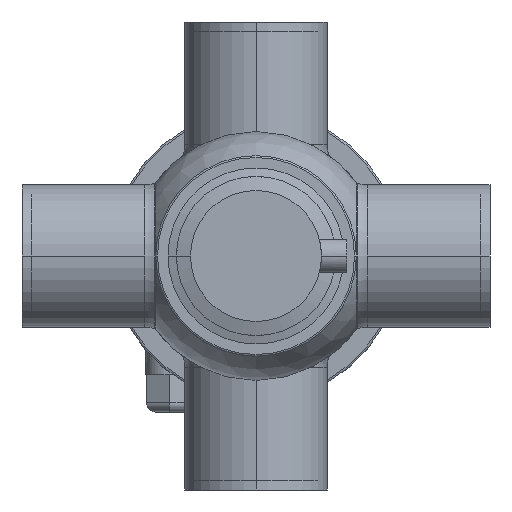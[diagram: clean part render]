
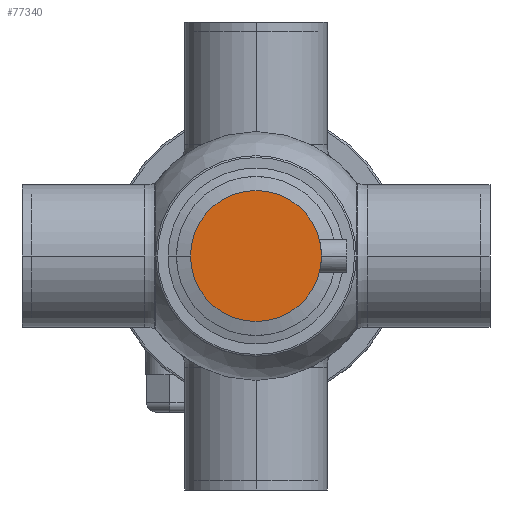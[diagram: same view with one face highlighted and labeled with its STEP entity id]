
A CAD part, front view. The second image highlights one B-rep face of the part: STEP entity #77340.
In plain terms, the highlighted planar face has unit normal (0, -1, 0).
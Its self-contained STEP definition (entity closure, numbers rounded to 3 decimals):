
#71840=CARTESIAN_POINT('',(35.,-92.85,0.))
;
#71850=VERTEX_POINT('',#71840);
#77100=CARTESIAN_POINT('',(-35.,-92.85,0.));
#77110=VERTEX_POINT('',#77100);
#77140=CARTESIAN_POINT('',(0.,-92.85,0.));
#77150=DIRECTION('',(0.,-1.,0.));
#77160=DIRECTION('',(-1.,0.,0.));
#77170=AXIS2_PLACEMENT_3D('',#77140,#77150,#77160);
#77180=CIRCLE('',#77170,35.);
#77190=EDGE_CURVE('',#77110,#71850,#77180,.T.);
#77240=CARTESIAN_POINT('',(0.,-92.85,0.));
#77250=DIRECTION('',(0.,-1.,0.));
#77260=DIRECTION('',(-1.,0.,0.));
#77270=AXIS2_PLACEMENT_3D('',#77240,#77250,#77260);
#77280=PLANE('',#77270);
#77290=EDGE_CURVE('',#71850,#77110,#77180,.T.);
#77300=ORIENTED_EDGE('',*,*,#77290,.T.);
#77310=ORIENTED_EDGE('',*,*,#77190,.T.);
#77320=EDGE_LOOP('',(#77310,#77300));
#77330=FACE_OUTER_BOUND('',#77320,.T.);
#77340=ADVANCED_FACE('',(#77330),#77280,.T.);
